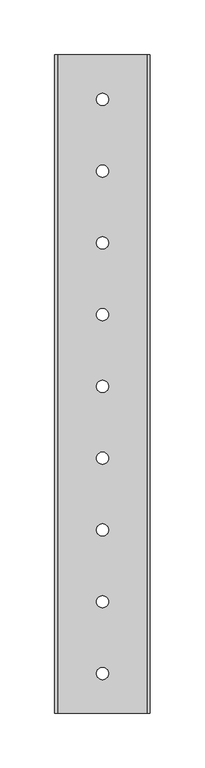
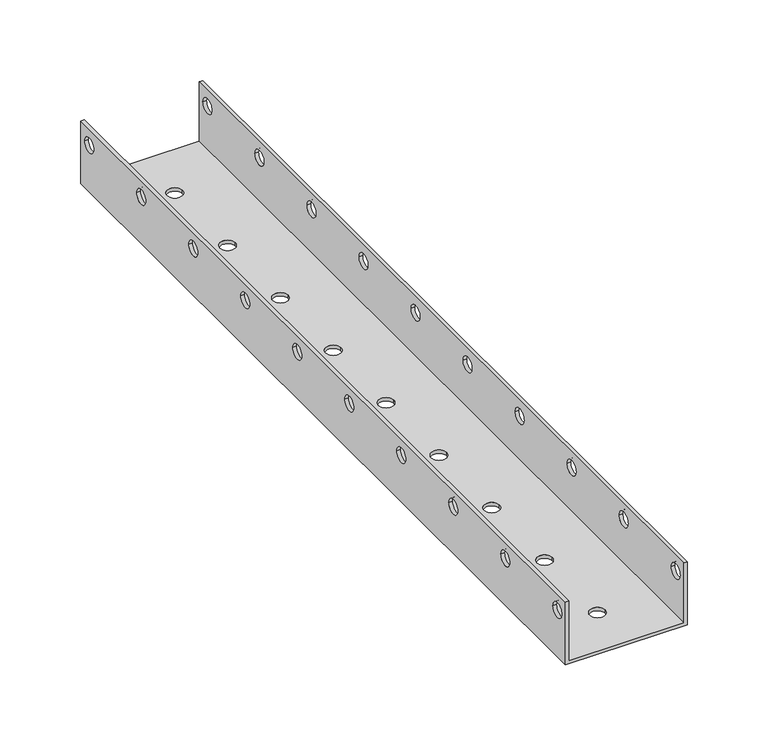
"""IFC4 building model written with IfcOpenShell, lengths in millimetres: proxy geometry, PSHGR_Support-Basorplast : Basorplast PSHGR 600."""

import ifcopenshell
import ifcopenshell.guid

model = None  # the IFC model being written
_history = None  # IfcOwnerHistory: only IFC2X3 demands one
_inside = {}  # id of a spatial element -> (the spatial element, [elements in it])
_under = {}  # id of a project, library or spatial element -> (it, [spatial elements below it])
_declared = {}  # id of a project -> (the project, [libraries it declares])
_typed = {}  # id of a type object -> (the type object, [elements of that type])
_made_of = {}  # id of a material, layer set ... -> (it, [elements and type objects made of it])


def new_model(schema):
    """Start an empty IFC model of exactly this schema.

    Asked for "IFC4X3", IfcOpenShell would pick the latest addendum, in which some entities
    have other attributes; the version numbers below select the first issue.
    IFC2X3 requires an IfcOwnerHistory on every rooted entity: one is made here for all.
    """
    global model, _history
    if schema == "IFC4X3":
        model = ifcopenshell.file(schema_version=(4, 3, 0, 0))
    else:
        model = ifcopenshell.file(schema=schema)
    _inside.clear()
    _under.clear()
    _declared.clear()
    _typed.clear()
    _made_of.clear()
    _history = None
    if model.schema == "IFC2X3":
        org = make("IfcOrganization", Name="unknown")
        user = make(
            "IfcPersonAndOrganization",
            ThePerson=make("IfcPerson", FamilyName="unknown"),
            TheOrganization=org,
        )
        app = make(
            "IfcApplication",
            ApplicationDeveloper=org,
            Version="unknown",
            ApplicationFullName="unknown",
            ApplicationIdentifier="unknown",
        )
        _history = make(
            "IfcOwnerHistory",
            OwningUser=user,
            OwningApplication=app,
            ChangeAction="ADDED",
            CreationDate=0,
        )
    return model


def make(cls, **values):
    """One entity of the class cls with the attributes given. An attribute that is None is left unset."""
    return model.create_entity(
        cls, **{name: value for name, value in values.items() if value is not None}
    )


def rooted(cls, **values):
    """An entity with a GlobalId (a new one), such as an element, a storey or a relation."""
    return make(cls, GlobalId=ifcopenshell.guid.new(), OwnerHistory=_history, **values)


def si_unit(unit_type, name, prefix=None):
    """IfcSIUnit, for example si_unit("LENGTHUNIT", "METRE", prefix="MILLI")."""
    return make("IfcSIUnit", UnitType=unit_type, Prefix=prefix, Name=name)


def assignment(units):
    """IfcUnitAssignment: the units of a project."""
    return None if units is None else make("IfcUnitAssignment", Units=units)


def point(xyz):
    """IfcCartesianPoint."""
    return None if xyz is None else make("IfcCartesianPoint", Coordinates=xyz)


def direction(xyz):
    """IfcDirection."""
    return None if xyz is None else make("IfcDirection", DirectionRatios=xyz)


def frame(location, z_axis=None, x_axis=None):
    """IfcAxis2Placement3D, a coordinate frame: its origin and axes. An axis left out is left unset."""
    return make(
        "IfcAxis2Placement3D",
        Location=point(location),
        Axis=direction(z_axis),
        RefDirection=direction(x_axis),
    )


def origin():
    """The frame at (0, 0, 0) with its axes left unset."""
    return frame((0.0, 0.0, 0.0))


def place(relative_to, where):
    """IfcLocalPlacement: puts the frame where relative to a parent placement (None: the world)."""
    return make(
        "IfcLocalPlacement", PlacementRelTo=relative_to, RelativePlacement=where
    )


def context(
    kind, dimensions, precision=None, world=None, true_north=None, identifier=None
):
    """IfcGeometricRepresentationContext, for example the 3D "Model" context."""
    return make(
        "IfcGeometricRepresentationContext",
        ContextIdentifier=identifier,
        ContextType=kind,
        CoordinateSpaceDimension=dimensions,
        Precision=precision,
        WorldCoordinateSystem=world,
        TrueNorth=true_north,
    )


def project(units=None, contexts=None):
    """IfcProject with its units and contexts."""
    return rooted(
        "IfcProject",
        Name="project",
        RepresentationContexts=contexts,
        UnitsInContext=assignment(units),
    )


def spatial(cls, under=None, at=None, **own):
    """A site, building, storey or space (cls), placed at a placement, below another one or the project."""
    s = rooted(cls, ObjectPlacement=at, **own)
    if under is not None:
        _under.setdefault(under.id(), (under, []))[1].append(s)
    return s


def polyline(points):
    """IfcPolyline through the points."""
    return make("IfcPolyline", Points=[point(p) for p in points])


def circle_curve(where, radius):
    """IfcCircle in the frame where."""
    return make("IfcCircle", Position=where, Radius=radius)


def shape(context_of_items, identifier, shape_type, items):
    """IfcShapeRepresentation: the items that make up one representation, for example the "Body"."""
    return make(
        "IfcShapeRepresentation",
        ContextOfItems=context_of_items,
        RepresentationIdentifier=identifier,
        RepresentationType=shape_type,
        Items=items,
    )


def source(mapping_origin, context_of_items, identifier, shape_type, items):
    """IfcRepresentationMap: a shape defined once, which mapped items show again and again."""
    return make(
        "IfcRepresentationMap",
        MappingOrigin=mapping_origin,
        MappedRepresentation=shape(context_of_items, identifier, shape_type, items),
    )


def transform(
    local_origin,
    x_axis=None,
    y_axis=None,
    z_axis=None,
    scale=None,
    scale2=None,
    scale3=None,
    uniform=True,
):
    """IfcCartesianTransformationOperator3D, or its non-uniform kind. x_axis, y_axis, z_axis: its Axis1, 2, 3."""
    if uniform:
        return make(
            "IfcCartesianTransformationOperator3D",
            Axis1=direction(x_axis),
            Axis2=direction(y_axis),
            LocalOrigin=point(local_origin),
            Scale=scale,
            Axis3=direction(z_axis),
        )
    return make(
        "IfcCartesianTransformationOperator3DnonUniform",
        Axis1=direction(x_axis),
        Axis2=direction(y_axis),
        LocalOrigin=point(local_origin),
        Scale=scale,
        Axis3=direction(z_axis),
        Scale2=scale2,
        Scale3=scale3,
    )


def mapped(mapping_source, mapping_target):
    """IfcMappedItem: shows the shape of a source again, moved by a transform."""
    return make(
        "IfcMappedItem", MappingSource=mapping_source, MappingTarget=mapping_target
    )


def made_of(thing, what):
    """Note that an element or type object is made of a material, layer set ...; save() writes the relation."""
    if what is not None:
        _made_of.setdefault(what.id(), (what, []))[1].append(thing)
    return thing


def element(
    cls,
    number,
    at=None,
    inside=None,
    cuts=None,
    type_object=None,
    material=None,
    context=None,
    identifier="Body",
    shape_type=None,
    held_by="IfcProductDefinitionShape",
    body=None,
    shapes=None,
    **own,
):
    """One element of the class cls, such as IfcWall. Its Tag is "e" and its number.

    at: its placement. inside: the storey or other place that contains it. cuts: it is an
    opening in that element (IfcRelVoidsElement). A single representation is given by context,
    identifier, shape_type and body (its items); several are given by shapes. held_by: the class
    of the entity that holds the representations. save() writes the other relations.
    """
    e = rooted(cls, Tag="e%d" % number, ObjectPlacement=at, **own)
    if body is not None:
        shapes = [shape(context, identifier, shape_type, body)]
    if shapes is not None:
        e.Representation = make(held_by, Representations=shapes)
    if inside is not None:
        _inside.setdefault(inside.id(), (inside, []))[1].append(e)
    if cuts is not None:
        rooted(
            "IfcRelVoidsElement", RelatingBuildingElement=cuts, RelatedOpeningElement=e
        )
    if type_object is not None:
        _typed.setdefault(type_object.id(), (type_object, []))[1].append(e)
    return made_of(e, material)


def aggregate(whole, parts):
    """IfcRelAggregates: a whole, such as a stair, and the parts it consists of."""
    return rooted("IfcRelAggregates", RelatingObject=whole, RelatedObjects=parts)


def save(model, path):
    """Write the relations noted so far, then the file.

    IfcRelAggregates (storeys below a building ...), IfcRelContainedInSpatialStructure (elements
    in a storey), IfcRelDefinesByType, IfcRelAssociatesMaterial and IfcRelDeclares: one each for
    every whole, place, type object, material and project.
    """
    for whole, parts in _under.values():
        aggregate(whole, parts)
    for where, things in _inside.values():
        rooted(
            "IfcRelContainedInSpatialStructure",
            RelatedElements=things,
            RelatingStructure=where,
        )
    for kind, things in _typed.values():
        rooted("IfcRelDefinesByType", RelatedObjects=things, RelatingType=kind)
    for what, things in _made_of.values():
        rooted("IfcRelAssociatesMaterial", RelatedObjects=things, RelatingMaterial=what)
    for by, libraries in _declared.values():
        rooted("IfcRelDeclares", RelatingContext=by, RelatedDefinitions=libraries)
    model.write(path)


def plane_surface(at):
    """IfcPlane: the flat surface through the origin of the frame at, square to its z axis."""
    return make("IfcPlane", Position=at)


def revolved_surface(curve, axis_point, axis_direction):
    """IfcSurfaceOfRevolution: the curve turned about the line through axis_point along axis_direction."""
    return make(
        "IfcSurfaceOfRevolution",
        SweptCurve=make("IfcArbitraryOpenProfileDef", ProfileType="CURVE", Curve=curve),
        AxisPosition=make("IfcAxis1Placement", Location=point(axis_point), Axis=direction(axis_direction)),
    )


def advanced_brep(points, edges, surfaces, faces):
    """IfcAdvancedBrep: a solid bounded by faces that lie on surfaces and meet in shared edges.

    An edge is (start, end): straight between two places in points (the first is 0);
    or (start, end, curve); or (start, end, curve, False) where it runs against its curve.
    A face is (place in surfaces, loops), or (place, loops, False) where it looks against
    its surface's normal. A loop lists edges by number (the first is 1), with a minus sign
    where the edge is run from its end to its start. The first loop is the outer one.
    """
    corners = [point(p) for p in points]
    vertices = [make("IfcVertexPoint", VertexGeometry=c) for c in corners]
    made = []
    for start, end, *more in edges:
        made.append(
            make(
                "IfcEdgeCurve",
                EdgeStart=vertices[start],
                EdgeEnd=vertices[end],
                EdgeGeometry=more[0] if more else make("IfcPolyline", Points=[corners[start], corners[end]]),
                SameSense=more[1] if len(more) > 1 else True,
            )
        )
    hull = []
    for where, loops, *sense in faces:
        bounds = []
        for j, loop in enumerate(loops):
            ring = [make("IfcOrientedEdge", EdgeElement=made[abs(k) - 1], Orientation=k > 0) for k in loop]
            bounds.append(
                make(
                    "IfcFaceOuterBound" if j == 0 else "IfcFaceBound",
                    Bound=make("IfcEdgeLoop", EdgeList=ring),
                    Orientation=True,
                )
            )
        hull.append(make("IfcAdvancedFace", Bounds=bounds, FaceSurface=surfaces[where], SameSense=sense[0] if sense else True))
    return make("IfcAdvancedBrep", Outer=make("IfcClosedShell", CfsFaces=hull))


def generic_models_fcc492fe(model_context):
    return source(origin(), model_context, "Body", "AdvancedBrep", [
        advanced_brep(
        [(-43.5, 300.0, 47.5), (-41.0, 300.0, 47.5), (-41.0, 300.0, 2.5), (41.0, 300.0, 2.5), (41.0, 300.0, 47.5), (43.5, 300.0, 47.5), (43.5, 300.0, 0.0), (-43.5, 300.0, 0.0), (-43.5, -300.0, 47.5), (-43.5, -300.0, 0.0), (43.5, -300.0, 0.0), (43.5, -300.0, 47.5), (41.0, -300.0, 47.5), (41.0, -300.0, 2.5), (-41.0, -300.0, 2.5), (-41.0, -300.0, 47.5), (-41.0, 295.1029069, 35.5), (-41.0, 284.1029069, 35.5), (-41.0, -220.099677, 35.5), (-41.0, -231.099677, 35.5), (-41.0, -155.699354, 35.5), (-41.0, -166.699354, 35.5), (-41.0, -91.299031, 35.5), (-41.0, -102.299031, 35.5), (-41.0, -26.898708, 35.5), (-41.0, -37.898708, 35.5), (-41.0, 37.5016149, 35.5), (-41.0, 26.5016149, 35.5), (-41.0, 101.9019379, 35.5), (-41.0, 90.9019379, 35.5), (-41.0, 166.3022609, 35.5), (-41.0, 155.3022609, 35.5), (-41.0, 230.7025839, 35.5), (-41.0, 219.7025839, 35.5), (-41.0, -284.5, 35.5), (-41.0, -295.5, 35.5), (5.6841783, 259.35708, 2.5), (-5.3158217, 259.35708, 2.5), (5.6841783, -198.4646412, 2.5), (-5.3158217, -198.4646412, 2.5), (5.6841783, -133.0615382, 2.5), (-5.3158217, -133.0615382, 2.5), (5.6841783, -67.6584352, 2.5), (-5.3158217, -67.6584352, 2.5), (5.6841783, -2.2553321, 2.5), (-5.3158217, -2.2553321, 2.5), (5.6841783, 63.1477709, 2.5), (-5.3158217, 63.1477709, 2.5), (5.6841783, 128.550874, 2.5), (-5.3158217, 128.550874, 2.5), (5.6841783, 193.953977, 2.5), (-5.3158217, 193.953977, 2.5), (5.6841783, -263.8677443, 2.5), (-5.3158217, -263.8677443, 2.5), (41.0, 284.1029069, 35.5), (41.0, 295.1029069, 35.5), (41.0, -231.099677, 35.5), (41.0, -220.099677, 35.5), (41.0, -166.699354, 35.5), (41.0, -155.699354, 35.5), (41.0, -102.299031, 35.5), (41.0, -91.299031, 35.5), (41.0, -37.898708, 35.5), (41.0, -26.898708, 35.5), (41.0, 26.5016149, 35.5), (41.0, 37.5016149, 35.5), (41.0, 90.9019379, 35.5), (41.0, 101.9019379, 35.5), (41.0, 155.3022609, 35.5), (41.0, 166.3022609, 35.5), (41.0, 219.7025839, 35.5), (41.0, 230.7025839, 35.5), (41.0, -295.5, 35.5), (41.0, -284.5, 35.5), (43.5, 295.1029069, 35.5), (43.5, 284.1029069, 35.5), (43.5, -220.099677, 35.5), (43.5, -231.099677, 35.5), (43.5, -155.699354, 35.5), (43.5, -166.699354, 35.5), (43.5, -91.299031, 35.5), (43.5, -102.299031, 35.5), (43.5, -26.898708, 35.5), (43.5, -37.898708, 35.5), (43.5, 37.5016149, 35.5), (43.5, 26.5016149, 35.5), (43.5, 101.9019379, 35.5), (43.5, 90.9019379, 35.5), (43.5, 166.3022609, 35.5), (43.5, 155.3022609, 35.5), (43.5, 230.7025839, 35.5), (43.5, 219.7025839, 35.5), (43.5, -284.5, 35.5), (43.5, -295.5, 35.5), (-5.3158217, 259.35708, 0.0), (5.6841783, 259.35708, 0.0), (-5.3158217, -198.4646412, 0.0), (5.6841783, -198.4646412, 0.0), (-5.3158217, -133.0615382, 0.0), (5.6841783, -133.0615382, 0.0), (-5.3158217, -67.6584352, 0.0), (5.6841783, -67.6584352, 0.0), (-5.3158217, -2.2553321, 0.0), (5.6841783, -2.2553321, 0.0), (-5.3158217, 63.1477709, 0.0), (5.6841783, 63.1477709, 0.0), (-5.3158217, 128.550874, 0.0), (5.6841783, 128.550874, 0.0), (-5.3158217, 193.953977, 0.0), (5.6841783, 193.953977, 0.0), (-5.3158217, -263.8677443, 0.0), (5.6841783, -263.8677443, 0.0), (-43.5, 284.1029069, 35.5), (-43.5, 295.1029069, 35.5), (-43.5, -231.099677, 35.5), (-43.5, -220.099677, 35.5), (-43.5, -166.699354, 35.5), (-43.5, -155.699354, 35.5), (-43.5, -102.299031, 35.5), (-43.5, -91.299031, 35.5), (-43.5, -37.898708, 35.5), (-43.5, -26.898708, 35.5), (-43.5, 26.5016149, 35.5), (-43.5, 37.5016149, 35.5), (-43.5, 90.9019379, 35.5), (-43.5, 101.9019379, 35.5), (-43.5, 155.3022609, 35.5), (-43.5, 166.3022609, 35.5), (-43.5, 219.7025839, 35.5), (-43.5, 230.7025839, 35.5), (-43.5, -295.5, 35.5), (-43.5, -284.5, 35.5)],
        [
            (0, 1),
            (1, 2),
            (2, 3),
            (3, 4),
            (4, 5),
            (5, 6),
            (6, 7),
            (7, 0),
            (8, 9),
            (9, 10),
            (10, 11),
            (11, 12),
            (12, 13),
            (13, 14),
            (14, 15),
            (15, 8),
            (0, 8),
            (15, 1),
            (14, 2),
            (16, 17, circle_curve(frame((-41.0, 289.6029069, 35.5), z_axis=(-1.0, 0.0, 0.0), x_axis=(0.0, 1.0, 0.0)), 5.5)),
            (17, 16, circle_curve(frame((-41.0, 289.6029069, 35.5), z_axis=(-1.0, 0.0, 0.0), x_axis=(0.0, 1.0, 0.0)), 5.5)),
            (18, 19, circle_curve(frame((-41.0, -225.599677, 35.5), z_axis=(-1.0, 0.0, 0.0), x_axis=(0.0, 1.0, 0.0)), 5.5)),
            (19, 18, circle_curve(frame((-41.0, -225.599677, 35.5), z_axis=(-1.0, 0.0, 0.0), x_axis=(0.0, 1.0, 0.0)), 5.5)),
            (20, 21, circle_curve(frame((-41.0, -161.199354, 35.5), z_axis=(-1.0, 0.0, 0.0), x_axis=(0.0, 1.0, 0.0)), 5.5)),
            (21, 20, circle_curve(frame((-41.0, -161.199354, 35.5), z_axis=(-1.0, 0.0, 0.0), x_axis=(0.0, 1.0, 0.0)), 5.5)),
            (22, 23, circle_curve(frame((-41.0, -96.799031, 35.5), z_axis=(-1.0, 0.0, 0.0), x_axis=(0.0, 1.0, 0.0)), 5.5)),
            (23, 22, circle_curve(frame((-41.0, -96.799031, 35.5), z_axis=(-1.0, 0.0, 0.0), x_axis=(0.0, 1.0, 0.0)), 5.5)),
            (24, 25, circle_curve(frame((-41.0, -32.398708, 35.5), z_axis=(-1.0, 0.0, 0.0), x_axis=(0.0, 1.0, 0.0)), 5.5)),
            (25, 24, circle_curve(frame((-41.0, -32.398708, 35.5), z_axis=(-1.0, 0.0, 0.0), x_axis=(0.0, 1.0, 0.0)), 5.5)),
            (26, 27, circle_curve(frame((-41.0, 32.0016149, 35.5), z_axis=(-1.0, 0.0, 0.0), x_axis=(0.0, 1.0, 0.0)), 5.5)),
            (27, 26, circle_curve(frame((-41.0, 32.0016149, 35.5), z_axis=(-1.0, 0.0, 0.0), x_axis=(0.0, 1.0, 0.0)), 5.5)),
            (28, 29, circle_curve(frame((-41.0, 96.4019379, 35.5), z_axis=(-1.0, 0.0, 0.0), x_axis=(0.0, 1.0, 0.0)), 5.5)),
            (29, 28, circle_curve(frame((-41.0, 96.4019379, 35.5), z_axis=(-1.0, 0.0, 0.0), x_axis=(0.0, 1.0, 0.0)), 5.5)),
            (30, 31, circle_curve(frame((-41.0, 160.8022609, 35.5), z_axis=(-1.0, 0.0, 0.0), x_axis=(0.0, 1.0, 0.0)), 5.5)),
            (31, 30, circle_curve(frame((-41.0, 160.8022609, 35.5), z_axis=(-1.0, 0.0, 0.0), x_axis=(0.0, 1.0, 0.0)), 5.5)),
            (32, 33, circle_curve(frame((-41.0, 225.2025839, 35.5), z_axis=(-1.0, 0.0, 0.0), x_axis=(0.0, 1.0, 0.0)), 5.5)),
            (33, 32, circle_curve(frame((-41.0, 225.2025839, 35.5), z_axis=(-1.0, 0.0, 0.0), x_axis=(0.0, 1.0, 0.0)), 5.5)),
            (34, 35, circle_curve(frame((-41.0, -290.0, 35.5), z_axis=(-1.0, 0.0, 0.0), x_axis=(0.0, 1.0, 0.0)), 5.5)),
            (35, 34, circle_curve(frame((-41.0, -290.0, 35.5), z_axis=(-1.0, 0.0, 0.0), x_axis=(0.0, 1.0, 0.0)), 5.5)),
            (13, 3),
            (36, 37, circle_curve(frame((0.1841783, 259.35708, 2.5), z_axis=(0.0, 0.0, -1.0), x_axis=(1.0, 0.0, 0.0)), 5.5)),
            (37, 36, circle_curve(frame((0.1841783, 259.35708, 2.5), z_axis=(0.0, 0.0, -1.0), x_axis=(1.0, 0.0, 0.0)), 5.5)),
            (38, 39, circle_curve(frame((0.1841783, -198.4646412, 2.5), z_axis=(0.0, 0.0, -1.0), x_axis=(1.0, 0.0, 0.0)), 5.5)),
            (39, 38, circle_curve(frame((0.1841783, -198.4646412, 2.5), z_axis=(0.0, 0.0, -1.0), x_axis=(1.0, 0.0, 0.0)), 5.5)),
            (40, 41, circle_curve(frame((0.1841783, -133.0615382, 2.5), z_axis=(0.0, 0.0, -1.0), x_axis=(1.0, 0.0, 0.0)), 5.5)),
            (41, 40, circle_curve(frame((0.1841783, -133.0615382, 2.5), z_axis=(0.0, 0.0, -1.0), x_axis=(1.0, 0.0, 0.0)), 5.5)),
            (42, 43, circle_curve(frame((0.1841783, -67.6584352, 2.5), z_axis=(0.0, 0.0, -1.0), x_axis=(1.0, 0.0, 0.0)), 5.5)),
            (43, 42, circle_curve(frame((0.1841783, -67.6584352, 2.5), z_axis=(0.0, 0.0, -1.0), x_axis=(1.0, 0.0, 0.0)), 5.5)),
            (44, 45, circle_curve(frame((0.1841783, -2.2553321, 2.5), z_axis=(0.0, 0.0, -1.0), x_axis=(1.0, 0.0, 0.0)), 5.5)),
            (45, 44, circle_curve(frame((0.1841783, -2.2553321, 2.5), z_axis=(0.0, 0.0, -1.0), x_axis=(1.0, 0.0, 0.0)), 5.5)),
            (46, 47, circle_curve(frame((0.1841783, 63.1477709, 2.5), z_axis=(0.0, 0.0, -1.0), x_axis=(1.0, 0.0, 0.0)), 5.5)),
            (47, 46, circle_curve(frame((0.1841783, 63.1477709, 2.5), z_axis=(0.0, 0.0, -1.0), x_axis=(1.0, 0.0, 0.0)), 5.5)),
            (48, 49, circle_curve(frame((0.1841783, 128.550874, 2.5), z_axis=(0.0, 0.0, -1.0), x_axis=(1.0, 0.0, 0.0)), 5.5)),
            (49, 48, circle_curve(frame((0.1841783, 128.550874, 2.5), z_axis=(0.0, 0.0, -1.0), x_axis=(1.0, 0.0, 0.0)), 5.5)),
            (50, 51, circle_curve(frame((0.1841783, 193.953977, 2.5), z_axis=(0.0, 0.0, -1.0), x_axis=(1.0, 0.0, 0.0)), 5.5)),
            (51, 50, circle_curve(frame((0.1841783, 193.953977, 2.5), z_axis=(0.0, 0.0, -1.0), x_axis=(1.0, 0.0, 0.0)), 5.5)),
            (52, 53, circle_curve(frame((0.1841783, -263.8677443, 2.5), z_axis=(0.0, 0.0, -1.0), x_axis=(1.0, 0.0, 0.0)), 5.5)),
            (53, 52, circle_curve(frame((0.1841783, -263.8677443, 2.5), z_axis=(0.0, 0.0, -1.0), x_axis=(1.0, 0.0, 0.0)), 5.5)),
            (12, 4),
            (54, 55, circle_curve(frame((41.0, 289.6029069, 35.5), z_axis=(1.0, 0.0, 0.0), x_axis=(0.0, 1.0, 0.0)), 5.5)),
            (55, 54, circle_curve(frame((41.0, 289.6029069, 35.5), z_axis=(1.0, 0.0, 0.0), x_axis=(0.0, 1.0, 0.0)), 5.5)),
            (56, 57, circle_curve(frame((41.0, -225.599677, 35.5), z_axis=(1.0, 0.0, 0.0), x_axis=(0.0, 1.0, 0.0)), 5.5)),
            (57, 56, circle_curve(frame((41.0, -225.599677, 35.5), z_axis=(1.0, 0.0, 0.0), x_axis=(0.0, 1.0, 0.0)), 5.5)),
            (58, 59, circle_curve(frame((41.0, -161.199354, 35.5), z_axis=(1.0, 0.0, 0.0), x_axis=(0.0, 1.0, 0.0)), 5.5)),
            (59, 58, circle_curve(frame((41.0, -161.199354, 35.5), z_axis=(1.0, 0.0, 0.0), x_axis=(0.0, 1.0, 0.0)), 5.5)),
            (60, 61, circle_curve(frame((41.0, -96.799031, 35.5), z_axis=(1.0, 0.0, 0.0), x_axis=(0.0, 1.0, 0.0)), 5.5)),
            (61, 60, circle_curve(frame((41.0, -96.799031, 35.5), z_axis=(1.0, 0.0, 0.0), x_axis=(0.0, 1.0, 0.0)), 5.5)),
            (62, 63, circle_curve(frame((41.0, -32.398708, 35.5), z_axis=(1.0, 0.0, 0.0), x_axis=(0.0, 1.0, 0.0)), 5.5)),
            (63, 62, circle_curve(frame((41.0, -32.398708, 35.5), z_axis=(1.0, 0.0, 0.0), x_axis=(0.0, 1.0, 0.0)), 5.5)),
            (64, 65, circle_curve(frame((41.0, 32.0016149, 35.5), z_axis=(1.0, 0.0, 0.0), x_axis=(0.0, 1.0, 0.0)), 5.5)),
            (65, 64, circle_curve(frame((41.0, 32.0016149, 35.5), z_axis=(1.0, 0.0, 0.0), x_axis=(0.0, 1.0, 0.0)), 5.5)),
            (66, 67, circle_curve(frame((41.0, 96.4019379, 35.5), z_axis=(1.0, 0.0, 0.0), x_axis=(0.0, 1.0, 0.0)), 5.5)),
            (67, 66, circle_curve(frame((41.0, 96.4019379, 35.5), z_axis=(1.0, 0.0, 0.0), x_axis=(0.0, 1.0, 0.0)), 5.5)),
            (68, 69, circle_curve(frame((41.0, 160.8022609, 35.5), z_axis=(1.0, 0.0, 0.0), x_axis=(0.0, 1.0, 0.0)), 5.5)),
            (69, 68, circle_curve(frame((41.0, 160.8022609, 35.5), z_axis=(1.0, 0.0, 0.0), x_axis=(0.0, 1.0, 0.0)), 5.5)),
            (70, 71, circle_curve(frame((41.0, 225.2025839, 35.5), z_axis=(1.0, 0.0, 0.0), x_axis=(0.0, 1.0, 0.0)), 5.5)),
            (71, 70, circle_curve(frame((41.0, 225.2025839, 35.5), z_axis=(1.0, 0.0, 0.0), x_axis=(0.0, 1.0, 0.0)), 5.5)),
            (72, 73, circle_curve(frame((41.0, -290.0, 35.5), z_axis=(1.0, 0.0, 0.0), x_axis=(0.0, 1.0, 0.0)), 5.5)),
            (73, 72, circle_curve(frame((41.0, -290.0, 35.5), z_axis=(1.0, 0.0, 0.0), x_axis=(0.0, 1.0, 0.0)), 5.5)),
            (11, 5),
            (10, 6),
            (74, 75, circle_curve(frame((43.5, 289.6029069, 35.5), z_axis=(-1.0, 0.0, 0.0), x_axis=(0.0, 1.0, 0.0)), 5.5)),
            (75, 74, circle_curve(frame((43.5, 289.6029069, 35.5), z_axis=(-1.0, 0.0, 0.0), x_axis=(0.0, 1.0, 0.0)), 5.5)),
            (76, 77, circle_curve(frame((43.5, -225.599677, 35.5), z_axis=(-1.0, 0.0, 0.0), x_axis=(0.0, 1.0, 0.0)), 5.5)),
            (77, 76, circle_curve(frame((43.5, -225.599677, 35.5), z_axis=(-1.0, 0.0, 0.0), x_axis=(0.0, 1.0, 0.0)), 5.5)),
            (78, 79, circle_curve(frame((43.5, -161.199354, 35.5), z_axis=(-1.0, 0.0, 0.0), x_axis=(0.0, 1.0, 0.0)), 5.5)),
            (79, 78, circle_curve(frame((43.5, -161.199354, 35.5), z_axis=(-1.0, 0.0, 0.0), x_axis=(0.0, 1.0, 0.0)), 5.5)),
            (80, 81, circle_curve(frame((43.5, -96.799031, 35.5), z_axis=(-1.0, 0.0, 0.0), x_axis=(0.0, 1.0, 0.0)), 5.5)),
            (81, 80, circle_curve(frame((43.5, -96.799031, 35.5), z_axis=(-1.0, 0.0, 0.0), x_axis=(0.0, 1.0, 0.0)), 5.5)),
            (82, 83, circle_curve(frame((43.5, -32.398708, 35.5), z_axis=(-1.0, 0.0, 0.0), x_axis=(0.0, 1.0, 0.0)), 5.5)),
            (83, 82, circle_curve(frame((43.5, -32.398708, 35.5), z_axis=(-1.0, 0.0, 0.0), x_axis=(0.0, 1.0, 0.0)), 5.5)),
            (84, 85, circle_curve(frame((43.5, 32.0016149, 35.5), z_axis=(-1.0, 0.0, 0.0), x_axis=(0.0, 1.0, 0.0)), 5.5)),
            (85, 84, circle_curve(frame((43.5, 32.0016149, 35.5), z_axis=(-1.0, 0.0, 0.0), x_axis=(0.0, 1.0, 0.0)), 5.5)),
            (86, 87, circle_curve(frame((43.5, 96.4019379, 35.5), z_axis=(-1.0, 0.0, 0.0), x_axis=(0.0, 1.0, 0.0)), 5.5)),
            (87, 86, circle_curve(frame((43.5, 96.4019379, 35.5), z_axis=(-1.0, 0.0, 0.0), x_axis=(0.0, 1.0, 0.0)), 5.5)),
            (88, 89, circle_curve(frame((43.5, 160.8022609, 35.5), z_axis=(-1.0, 0.0, 0.0), x_axis=(0.0, 1.0, 0.0)), 5.5)),
            (89, 88, circle_curve(frame((43.5, 160.8022609, 35.5), z_axis=(-1.0, 0.0, 0.0), x_axis=(0.0, 1.0, 0.0)), 5.5)),
            (90, 91, circle_curve(frame((43.5, 225.2025839, 35.5), z_axis=(-1.0, 0.0, 0.0), x_axis=(0.0, 1.0, 0.0)), 5.5)),
            (91, 90, circle_curve(frame((43.5, 225.2025839, 35.5), z_axis=(-1.0, 0.0, 0.0), x_axis=(0.0, 1.0, 0.0)), 5.5)),
            (92, 93, circle_curve(frame((43.5, -290.0, 35.5), z_axis=(-1.0, 0.0, 0.0), x_axis=(0.0, 1.0, 0.0)), 5.5)),
            (93, 92, circle_curve(frame((43.5, -290.0, 35.5), z_axis=(-1.0, 0.0, 0.0), x_axis=(0.0, 1.0, 0.0)), 5.5)),
            (9, 7),
            (94, 95, circle_curve(frame((0.1841783, 259.35708, 0.0), z_axis=(0.0, 0.0, 1.0), x_axis=(1.0, 0.0, 0.0)), 5.5)),
            (95, 94, circle_curve(frame((0.1841783, 259.35708, 0.0), z_axis=(0.0, 0.0, 1.0), x_axis=(1.0, 0.0, 0.0)), 5.5)),
            (96, 97, circle_curve(frame((0.1841783, -198.4646412, 0.0), z_axis=(0.0, 0.0, 1.0), x_axis=(1.0, 0.0, 0.0)), 5.5)),
            (97, 96, circle_curve(frame((0.1841783, -198.4646412, 0.0), z_axis=(0.0, 0.0, 1.0), x_axis=(1.0, 0.0, 0.0)), 5.5)),
            (98, 99, circle_curve(frame((0.1841783, -133.0615382, 0.0), z_axis=(0.0, 0.0, 1.0), x_axis=(1.0, 0.0, 0.0)), 5.5)),
            (99, 98, circle_curve(frame((0.1841783, -133.0615382, 0.0), z_axis=(0.0, 0.0, 1.0), x_axis=(1.0, 0.0, 0.0)), 5.5)),
            (100, 101, circle_curve(frame((0.1841783, -67.6584352, 0.0), z_axis=(0.0, 0.0, 1.0), x_axis=(1.0, 0.0, 0.0)), 5.5)),
            (101, 100, circle_curve(frame((0.1841783, -67.6584352, 0.0), z_axis=(0.0, 0.0, 1.0), x_axis=(1.0, 0.0, 0.0)), 5.5)),
            (102, 103, circle_curve(frame((0.1841783, -2.2553321, 0.0), z_axis=(0.0, 0.0, 1.0), x_axis=(1.0, 0.0, 0.0)), 5.5)),
            (103, 102, circle_curve(frame((0.1841783, -2.2553321, 0.0), z_axis=(0.0, 0.0, 1.0), x_axis=(1.0, 0.0, 0.0)), 5.5)),
            (104, 105, circle_curve(frame((0.1841783, 63.1477709, 0.0), z_axis=(0.0, 0.0, 1.0), x_axis=(1.0, 0.0, 0.0)), 5.5)),
            (105, 104, circle_curve(frame((0.1841783, 63.1477709, 0.0), z_axis=(0.0, 0.0, 1.0), x_axis=(1.0, 0.0, 0.0)), 5.5)),
            (106, 107, circle_curve(frame((0.1841783, 128.550874, 0.0), z_axis=(0.0, 0.0, 1.0), x_axis=(1.0, 0.0, 0.0)), 5.5)),
            (107, 106, circle_curve(frame((0.1841783, 128.550874, 0.0), z_axis=(0.0, 0.0, 1.0), x_axis=(1.0, 0.0, 0.0)), 5.5)),
            (108, 109, circle_curve(frame((0.1841783, 193.953977, 0.0), z_axis=(0.0, 0.0, 1.0), x_axis=(1.0, 0.0, 0.0)), 5.5)),
            (109, 108, circle_curve(frame((0.1841783, 193.953977, 0.0), z_axis=(0.0, 0.0, 1.0), x_axis=(1.0, 0.0, 0.0)), 5.5)),
            (110, 111, circle_curve(frame((0.1841783, -263.8677443, 0.0), z_axis=(0.0, 0.0, 1.0), x_axis=(1.0, 0.0, 0.0)), 5.5)),
            (111, 110, circle_curve(frame((0.1841783, -263.8677443, 0.0), z_axis=(0.0, 0.0, 1.0), x_axis=(1.0, 0.0, 0.0)), 5.5)),
            (112, 113, circle_curve(frame((-43.5, 289.6029069, 35.5), z_axis=(1.0, 0.0, 0.0), x_axis=(0.0, 1.0, 0.0)), 5.5)),
            (113, 112, circle_curve(frame((-43.5, 289.6029069, 35.5), z_axis=(1.0, 0.0, 0.0), x_axis=(0.0, 1.0, 0.0)), 5.5)),
            (114, 115, circle_curve(frame((-43.5, -225.599677, 35.5), z_axis=(1.0, 0.0, 0.0), x_axis=(0.0, 1.0, 0.0)), 5.5)),
            (115, 114, circle_curve(frame((-43.5, -225.599677, 35.5), z_axis=(1.0, 0.0, 0.0), x_axis=(0.0, 1.0, 0.0)), 5.5)),
            (116, 117, circle_curve(frame((-43.5, -161.199354, 35.5), z_axis=(1.0, 0.0, 0.0), x_axis=(0.0, 1.0, 0.0)), 5.5)),
            (117, 116, circle_curve(frame((-43.5, -161.199354, 35.5), z_axis=(1.0, 0.0, 0.0), x_axis=(0.0, 1.0, 0.0)), 5.5)),
            (118, 119, circle_curve(frame((-43.5, -96.799031, 35.5), z_axis=(1.0, 0.0, 0.0), x_axis=(0.0, 1.0, 0.0)), 5.5)),
            (119, 118, circle_curve(frame((-43.5, -96.799031, 35.5), z_axis=(1.0, 0.0, 0.0), x_axis=(0.0, 1.0, 0.0)), 5.5)),
            (120, 121, circle_curve(frame((-43.5, -32.398708, 35.5), z_axis=(1.0, 0.0, 0.0), x_axis=(0.0, 1.0, 0.0)), 5.5)),
            (121, 120, circle_curve(frame((-43.5, -32.398708, 35.5), z_axis=(1.0, 0.0, 0.0), x_axis=(0.0, 1.0, 0.0)), 5.5)),
            (122, 123, circle_curve(frame((-43.5, 32.0016149, 35.5), z_axis=(1.0, 0.0, 0.0), x_axis=(0.0, 1.0, 0.0)), 5.5)),
            (123, 122, circle_curve(frame((-43.5, 32.0016149, 35.5), z_axis=(1.0, 0.0, 0.0), x_axis=(0.0, 1.0, 0.0)), 5.5)),
            (124, 125, circle_curve(frame((-43.5, 96.4019379, 35.5), z_axis=(1.0, 0.0, 0.0), x_axis=(0.0, 1.0, 0.0)), 5.5)),
            (125, 124, circle_curve(frame((-43.5, 96.4019379, 35.5), z_axis=(1.0, 0.0, 0.0), x_axis=(0.0, 1.0, 0.0)), 5.5)),
            (126, 127, circle_curve(frame((-43.5, 160.8022609, 35.5), z_axis=(1.0, 0.0, 0.0), x_axis=(0.0, 1.0, 0.0)), 5.5)),
            (127, 126, circle_curve(frame((-43.5, 160.8022609, 35.5), z_axis=(1.0, 0.0, 0.0), x_axis=(0.0, 1.0, 0.0)), 5.5)),
            (128, 129, circle_curve(frame((-43.5, 225.2025839, 35.5), z_axis=(1.0, 0.0, 0.0), x_axis=(0.0, 1.0, 0.0)), 5.5)),
            (129, 128, circle_curve(frame((-43.5, 225.2025839, 35.5), z_axis=(1.0, 0.0, 0.0), x_axis=(0.0, 1.0, 0.0)), 5.5)),
            (130, 131, circle_curve(frame((-43.5, -290.0, 35.5), z_axis=(1.0, 0.0, 0.0), x_axis=(0.0, 1.0, 0.0)), 5.5)),
            (131, 130, circle_curve(frame((-43.5, -290.0, 35.5), z_axis=(1.0, 0.0, 0.0), x_axis=(0.0, 1.0, 0.0)), 5.5)),
            (112, 17),
            (16, 113),
            (54, 75),
            (74, 55),
            (114, 19),
            (18, 115),
            (56, 77),
            (76, 57),
            (116, 21),
            (20, 117),
            (58, 79),
            (78, 59),
            (118, 23),
            (22, 119),
            (60, 81),
            (80, 61),
            (120, 25),
            (24, 121),
            (62, 83),
            (82, 63),
            (122, 27),
            (26, 123),
            (64, 85),
            (84, 65),
            (124, 29),
            (28, 125),
            (66, 87),
            (86, 67),
            (126, 31),
            (30, 127),
            (68, 89),
            (88, 69),
            (128, 33),
            (32, 129),
            (70, 91),
            (90, 71),
            (36, 95),
            (94, 37),
            (38, 97),
            (96, 39),
            (40, 99),
            (98, 41),
            (42, 101),
            (100, 43),
            (44, 103),
            (102, 45),
            (46, 105),
            (104, 47),
            (48, 107),
            (106, 49),
            (50, 109),
            (108, 51),
            (130, 35),
            (34, 131),
            (72, 93),
            (92, 73),
            (52, 111),
            (110, 53),
        ],
        [
            plane_surface(frame((-43.5, 300.0, 47.5), z_axis=(0.0, 1.0, 0.0), x_axis=(1.0, 0.0, 0.0))),
            plane_surface(frame((-43.5, -300.0, 47.5), z_axis=(0.0, -1.0, 0.0), x_axis=(-1.0, 0.0, 0.0))),
            plane_surface(frame((-43.5, 300.0, 47.5), z_axis=(0.0, 0.0, 1.0), x_axis=(0.0, -1.0, 0.0))),
            plane_surface(frame((-41.0, 300.0, 47.5), z_axis=(1.0, 0.0, 0.0), x_axis=(0.0, -1.0, 0.0))),
            plane_surface(frame((-41.0, 300.0, 2.5), z_axis=(0.0, 0.0, 1.0), x_axis=(0.0, -1.0, 0.0))),
            plane_surface(frame((41.0, 300.0, 2.5), z_axis=(-1.0, 0.0, 0.0), x_axis=(0.0, -1.0, 0.0))),
            plane_surface(frame((41.0, 300.0, 47.5), z_axis=(0.0, 0.0, 1.0), x_axis=(0.0, -1.0, 0.0))),
            plane_surface(frame((43.5, 300.0, 47.5), z_axis=(1.0, 0.0, 0.0), x_axis=(0.0, -1.0, 0.0))),
            plane_surface(frame((43.5, 300.0, 0.0), z_axis=(0.0, 0.0, -1.0), x_axis=(0.0, -1.0, 0.0))),
            plane_surface(frame((-43.5, 300.0, 0.0), z_axis=(-1.0, 0.0, 0.0), x_axis=(0.0, -1.0, 0.0))),
            revolved_surface(polyline([(-41.0, 295.1029069, 35.5), (-43.5, 295.1029069, 35.5)]), (-43.5, 289.6029069, 35.5), (1.0, 0.0, 0.0)),
            revolved_surface(polyline([(43.5, 295.1029069, 35.5), (41.0, 295.1029069, 35.5)]), (-43.5, 289.6029069, 35.5), (1.0, 0.0, 0.0)),
            revolved_surface(polyline([(-41.0, -220.099677, 35.5), (-43.5, -220.099677, 35.5)]), (-43.5, -225.599677, 35.5), (1.0, 0.0, 0.0)),
            revolved_surface(polyline([(43.5, -220.099677, 35.5), (41.0, -220.099677, 35.5)]), (-43.5, -225.599677, 35.5), (1.0, 0.0, 0.0)),
            revolved_surface(polyline([(-41.0, -155.699354, 35.5), (-43.5, -155.699354, 35.5)]), (-43.5, -161.199354, 35.5), (1.0, 0.0, 0.0)),
            revolved_surface(polyline([(43.5, -155.699354, 35.5), (41.0, -155.699354, 35.5)]), (-43.5, -161.199354, 35.5), (1.0, 0.0, 0.0)),
            revolved_surface(polyline([(-41.0, -91.299031, 35.5), (-43.5, -91.299031, 35.5)]), (-43.5, -96.799031, 35.5), (1.0, 0.0, 0.0)),
            revolved_surface(polyline([(43.5, -91.299031, 35.5), (41.0, -91.299031, 35.5)]), (-43.5, -96.799031, 35.5), (1.0, 0.0, 0.0)),
            revolved_surface(polyline([(-41.0, -26.898708, 35.5), (-43.5, -26.898708, 35.5)]), (-43.5, -32.398708, 35.5), (1.0, 0.0, 0.0)),
            revolved_surface(polyline([(43.5, -26.898708, 35.5), (41.0, -26.898708, 35.5)]), (-43.5, -32.398708, 35.5), (1.0, 0.0, 0.0)),
            revolved_surface(polyline([(-41.0, 37.5016149, 35.5), (-43.5, 37.5016149, 35.5)]), (-43.5, 32.0016149, 35.5), (1.0, 0.0, 0.0)),
            revolved_surface(polyline([(43.5, 37.5016149, 35.5), (41.0, 37.5016149, 35.5)]), (-43.5, 32.0016149, 35.5), (1.0, 0.0, 0.0)),
            revolved_surface(polyline([(-41.0, 101.9019379, 35.5), (-43.5, 101.9019379, 35.5)]), (-43.5, 96.4019379, 35.5), (1.0, 0.0, 0.0)),
            revolved_surface(polyline([(43.5, 101.9019379, 35.5), (41.0, 101.9019379, 35.5)]), (-43.5, 96.4019379, 35.5), (1.0, 0.0, 0.0)),
            revolved_surface(polyline([(-41.0, 166.3022609, 35.5), (-43.5, 166.3022609, 35.5)]), (-43.5, 160.8022609, 35.5), (1.0, 0.0, 0.0)),
            revolved_surface(polyline([(43.5, 166.3022609, 35.5), (41.0, 166.3022609, 35.5)]), (-43.5, 160.8022609, 35.5), (1.0, 0.0, 0.0)),
            revolved_surface(polyline([(-41.0, 230.7025839, 35.5), (-43.5, 230.7025839, 35.5)]), (-43.5, 225.2025839, 35.5), (1.0, 0.0, 0.0)),
            revolved_surface(polyline([(43.5, 230.7025839, 35.5), (41.0, 230.7025839, 35.5)]), (-43.5, 225.2025839, 35.5), (1.0, 0.0, 0.0)),
            revolved_surface(polyline([(5.6841783, 259.35708, 2.5), (5.6841783, 259.35708, 0.0)]), (0.1841783, 259.35708, 0.0), (0.0, 0.0, 1.0)),
            revolved_surface(polyline([(5.6841783, -198.4646412, 2.5), (5.6841783, -198.4646412, 0.0)]), (0.1841783, -198.4646412, 0.0), (0.0, 0.0, 1.0)),
            revolved_surface(polyline([(5.6841783, -133.0615382, 2.5), (5.6841783, -133.0615382, 0.0)]), (0.1841783, -133.0615382, 0.0), (0.0, 0.0, 1.0)),
            revolved_surface(polyline([(5.6841783, -67.6584352, 2.5), (5.6841783, -67.6584352, 0.0)]), (0.1841783, -67.6584352, 0.0), (0.0, 0.0, 1.0)),
            revolved_surface(polyline([(5.6841783, -2.2553321, 2.5), (5.6841783, -2.2553321, 0.0)]), (0.1841783, -2.2553321, 0.0), (0.0, 0.0, 1.0)),
            revolved_surface(polyline([(5.6841783, 63.1477709, 2.5), (5.6841783, 63.1477709, 0.0)]), (0.1841783, 63.1477709, 0.0), (0.0, 0.0, 1.0)),
            revolved_surface(polyline([(5.6841783, 128.550874, 2.5), (5.6841783, 128.550874, 0.0)]), (0.1841783, 128.550874, 0.0), (0.0, 0.0, 1.0)),
            revolved_surface(polyline([(5.6841783, 193.953977, 2.5), (5.6841783, 193.953977, 0.0)]), (0.1841783, 193.953977, 0.0), (0.0, 0.0, 1.0)),
            revolved_surface(polyline([(-41.0, -284.5, 35.5), (-43.5, -284.5, 35.5)]), (-43.5, -290.0, 35.5), (1.0, 0.0, 0.0)),
            revolved_surface(polyline([(43.5, -284.5, 35.5), (41.0, -284.5, 35.5)]), (-43.5, -290.0, 35.5), (1.0, 0.0, 0.0)),
            revolved_surface(polyline([(5.6841783, -263.8677443, 2.5), (5.6841783, -263.8677443, 0.0)]), (0.1841783, -263.8677443, 0.0), (0.0, 0.0, 1.0)),
        ],
        [
            (0, [[1, 2, 3, 4, 5, 6, 7, 8]]),
            (1, [[9, 10, 11, 12, 13, 14, 15, 16]]),
            (2, [[-1, 17, -16, 18]]),
            (3, [[-2, -18, -15, 19], [20, 21], [22, 23], [24, 25], [26, 27], [28, 29], [30, 31], [32, 33], [34, 35], [36, 37], [38, 39]]),
            (4, [[-3, -19, -14, 40], [41, 42], [43, 44], [45, 46], [47, 48], [49, 50], [51, 52], [53, 54], [55, 56], [57, 58]]),
            (5, [[-4, -40, -13, 59], [60, 61], [62, 63], [64, 65], [66, 67], [68, 69], [70, 71], [72, 73], [74, 75], [76, 77], [78, 79]]),
            (6, [[-5, -59, -12, 80]]),
            (7, [[-6, -80, -11, 81], [82, 83], [84, 85], [86, 87], [88, 89], [90, 91], [92, 93], [94, 95], [96, 97], [98, 99], [100, 101]]),
            (8, [[-7, -81, -10, 102], [103, 104], [105, 106], [107, 108], [109, 110], [111, 112], [113, 114], [115, 116], [117, 118], [119, 120]]),
            (9, [[-8, -102, -9, -17], [121, 122], [123, 124], [125, 126], [127, 128], [129, 130], [131, 132], [133, 134], [135, 136], [137, 138], [139, 140]]),
            (10, [[141, -20, 142, -121]]),
            (11, [[143, -82, 144, -60]]),
            (10, [[-141, -122, -142, -21]]),
            (11, [[-143, -61, -144, -83]]),
            (12, [[145, -22, 146, -123]]),
            (13, [[147, -84, 148, -62]]),
            (12, [[-145, -124, -146, -23]]),
            (13, [[-147, -63, -148, -85]]),
            (14, [[149, -24, 150, -125]]),
            (15, [[151, -86, 152, -64]]),
            (14, [[-149, -126, -150, -25]]),
            (15, [[-151, -65, -152, -87]]),
            (16, [[153, -26, 154, -127]]),
            (17, [[155, -88, 156, -66]]),
            (16, [[-153, -128, -154, -27]]),
            (17, [[-155, -67, -156, -89]]),
            (18, [[157, -28, 158, -129]]),
            (19, [[159, -90, 160, -68]]),
            (18, [[-157, -130, -158, -29]]),
            (19, [[-159, -69, -160, -91]]),
            (20, [[161, -30, 162, -131]]),
            (21, [[163, -92, 164, -70]]),
            (20, [[-161, -132, -162, -31]]),
            (21, [[-163, -71, -164, -93]]),
            (22, [[165, -32, 166, -133]]),
            (23, [[167, -94, 168, -72]]),
            (22, [[-165, -134, -166, -33]]),
            (23, [[-167, -73, -168, -95]]),
            (24, [[169, -34, 170, -135]]),
            (25, [[171, -96, 172, -74]]),
            (24, [[-169, -136, -170, -35]]),
            (25, [[-171, -75, -172, -97]]),
            (26, [[173, -36, 174, -137]]),
            (27, [[175, -98, 176, -76]]),
            (26, [[-173, -138, -174, -37]]),
            (27, [[-175, -77, -176, -99]]),
            (28, [[177, -103, 178, -41]]),
            (28, [[-177, -42, -178, -104]]),
            (29, [[179, -105, 180, -43]]),
            (29, [[-179, -44, -180, -106]]),
            (30, [[181, -107, 182, -45]]),
            (30, [[-181, -46, -182, -108]]),
            (31, [[183, -109, 184, -47]]),
            (31, [[-183, -48, -184, -110]]),
            (32, [[185, -111, 186, -49]]),
            (32, [[-185, -50, -186, -112]]),
            (33, [[187, -113, 188, -51]]),
            (33, [[-187, -52, -188, -114]]),
            (34, [[189, -115, 190, -53]]),
            (34, [[-189, -54, -190, -116]]),
            (35, [[191, -117, 192, -55]]),
            (35, [[-191, -56, -192, -118]]),
            (36, [[193, -38, 194, -139]]),
            (37, [[195, -100, 196, -78]]),
            (36, [[-193, -140, -194, -39]]),
            (37, [[-195, -79, -196, -101]]),
            (38, [[197, -119, 198, -57]]),
            (38, [[-197, -58, -198, -120]]),
        ],
    ),
    ])


if __name__ == "__main__":
    model = new_model("IFC4")
    model_context = context("Model", 3, world=origin())
    ifc_project = project(units=[si_unit("LENGTHUNIT", "METRE", prefix="MILLI")], contexts=[model_context])
    site = spatial("IfcSite", under=ifc_project)
    building = spatial("IfcBuilding", under=site)
    placement = place(None, origin())
    generic_models_shape = generic_models_fcc492fe(model_context)
    element("IfcBuildingElementProxy", 1, Name="PSHGR_Support-Basorplast : Basorplast PSHGR 600", ObjectType="PSHGR_Support-Basorplast : Basorplast PSHGR 600", at=placement, inside=building, context=model_context, shape_type="MappedRepresentation", body=[
        mapped(generic_models_shape, transform((0.0, 0.0, 0.0), x_axis=(1.0, 0.0, 0.0), y_axis=(0.0, 1.0, 0.0), z_axis=(0.0, 0.0, 1.0))),
    ])
    save(model, "model.ifc")
